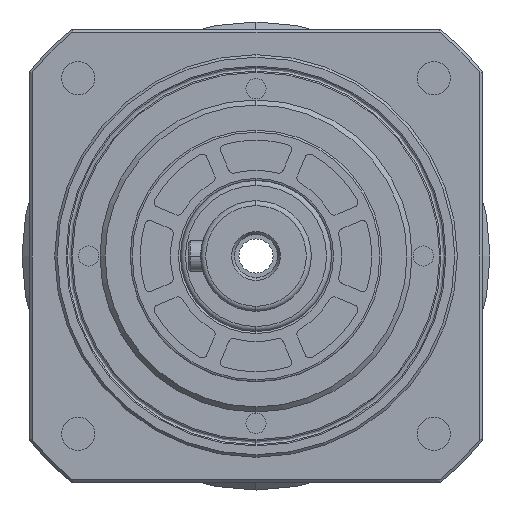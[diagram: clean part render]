
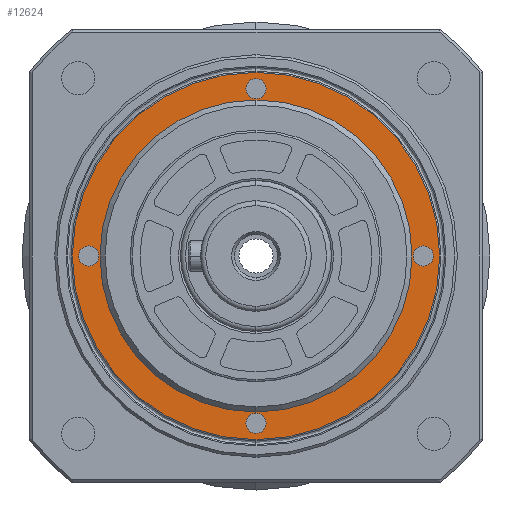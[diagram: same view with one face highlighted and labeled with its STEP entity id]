
A CAD part, left-side view. The second image highlights one B-rep face of the part: STEP entity #12624.
In plain terms, the highlighted planar face has unit normal (-1, 0, 0).
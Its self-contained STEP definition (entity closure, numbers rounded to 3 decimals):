
#421 = ORIENTED_EDGE ( 'NONE', *, *, #7993, .T. ) ;
#444 = ORIENTED_EDGE ( 'NONE', *, *, #8000, .F. ) ;
#446 = ORIENTED_EDGE ( 'NONE', *, *, #7984, .F. ) ;
#447 = ORIENTED_EDGE ( 'NONE', *, *, #8003, .F. ) ;
#451 = ORIENTED_EDGE ( 'NONE', *, *, #7982, .F. ) ;
#453 = ORIENTED_EDGE ( 'NONE', *, *, #8182, .F. ) ;
#454 = ORIENTED_EDGE ( 'NONE', *, *, #8178, .F. ) ;
#458 = ORIENTED_EDGE ( 'NONE', *, *, #8008, .F. ) ;
#499 = ORIENTED_EDGE ( 'NONE', *, *, #7996, .T. ) ;
#500 = ORIENTED_EDGE ( 'NONE', *, *, #8180, .F. ) ;
#501 = ORIENTED_EDGE ( 'NONE', *, *, #7966, .T. ) ;
#509 = ORIENTED_EDGE ( 'NONE', *, *, #8007, .T. ) ;
#2042 = CIRCLE ( 'NONE', #15411, 31. ) ;
#2043 = CIRCLE ( 'NONE', #15410, 2. ) ;
#2054 = CIRCLE ( 'NONE', #15375, 2. ) ;
#2065 = CIRCLE ( 'NONE', #15364, 2. ) ;
#2080 = CIRCLE ( 'NONE', #15392, 36.5 ) ;
#2087 = CIRCLE ( 'NONE', #15389, 36.5 ) ;
#2129 = CIRCLE ( 'NONE', #15384, 2. ) ;
#2136 = CIRCLE ( 'NONE', #15381, 2. ) ;
#2223 = CIRCLE ( 'NONE', #15371, 31. ) ;
#3495 = CIRCLE ( 'NONE', #15629, 2. ) ;
#3627 = CIRCLE ( 'NONE', #15628, 2. ) ;
#3658 = CIRCLE ( 'NONE', #15627, 2. ) ;
#5582 = VERTEX_POINT ( 'NONE', #6525 ) ;
#5597 = VERTEX_POINT ( 'NONE', #6456 ) ;
#5599 = VERTEX_POINT ( 'NONE', #6448 ) ;
#5646 = VERTEX_POINT ( 'NONE', #6292 ) ;
#6005 = VERTEX_POINT ( 'NONE', #6449 ) ;
#6292 = CARTESIAN_POINT ( 'NONE',  ( 88.9, -30.828, 2. ) ) ;
#6448 = CARTESIAN_POINT ( 'NONE',  ( 88.9, 35.672, -2. ) ) ;
#6449 = CARTESIAN_POINT ( 'NONE',  ( 88.9, 35.672, 2. ) ) ;
#6456 = CARTESIAN_POINT ( 'NONE',  ( 88.9, -30.828, -2. ) ) ;
#6525 = CARTESIAN_POINT ( 'NONE',  ( 88.9, 2.422, 35.25 ) ) ;
#7966 = EDGE_CURVE ( 'NONE', #10259, #10261, #2223, .T. ) ;
#7982 = EDGE_CURVE ( 'NONE', #10075, #5582, #2136, .T. ) ;
#7984 = EDGE_CURVE ( 'NONE', #5597, #5646, #2129, .T. ) ;
#7993 = EDGE_CURVE ( 'NONE', #10072, #10271, #2087, .T. ) ;
#7996 = EDGE_CURVE ( 'NONE', #10271, #10072, #2080, .T. ) ;
#8000 = EDGE_CURVE ( 'NONE', #10238, #10121, #2065, .T. ) ;
#8003 = EDGE_CURVE ( 'NONE', #5646, #5597, #2054, .T. ) ;
#8007 = EDGE_CURVE ( 'NONE', #10261, #10259, #2042, .T. ) ;
#8008 = EDGE_CURVE ( 'NONE', #6005, #5599, #2043, .T. ) ;
#8178 = EDGE_CURVE ( 'NONE', #5599, #6005, #3658, .T. ) ;
#8180 = EDGE_CURVE ( 'NONE', #10121, #10238, #3627, .T. ) ;
#8182 = EDGE_CURVE ( 'NONE', #5582, #10075, #3495, .T. ) ;
#9029 = DIRECTION ( 'NONE',  ( 0., 0., -1. ) ) ;
#9202 = DIRECTION ( 'NONE',  ( 1., 0., 0. ) ) ;
#9203 = DIRECTION ( 'NONE',  ( 0., 0., -1. ) ) ;
#9204 = CARTESIAN_POINT ( 'NONE',  ( 88.9, 35.672, 0. ) ) ;
#9205 = DIRECTION ( 'NONE',  ( -1., 0., 0. ) ) ;
#9206 = DIRECTION ( 'NONE',  ( 0., 0., 1. ) ) ;
#9301 = CARTESIAN_POINT ( 'NONE',  ( 88.9, 2.422, 0. ) ) ;
#9318 = CARTESIAN_POINT ( 'NONE',  ( 88.9, -30.828, 0. ) ) ;
#9319 = DIRECTION ( 'NONE',  ( 0., 0., 1. ) ) ;
#9320 = DIRECTION ( 'NONE',  ( -1., 0., 0. ) ) ;
#9325 = CARTESIAN_POINT ( 'NONE',  ( 88.9, 2.422, -33.25 ) ) ;
#9326 = DIRECTION ( 'NONE',  ( -1., 0., 0. ) ) ;
#9328 = DIRECTION ( 'NONE',  ( 0., 0., 1. ) ) ;
#9330 = CARTESIAN_POINT ( 'NONE',  ( 88.9, 2.422, 0. ) ) ;
#9336 = DIRECTION ( 'NONE',  ( 0., 0., 1. ) ) ;
#9337 = DIRECTION ( 'NONE',  ( -1., 0., 0. ) ) ;
#9374 = CARTESIAN_POINT ( 'NONE',  ( 88.9, 2.422, 33.25 ) ) ;
#9375 = DIRECTION ( 'NONE',  ( -1., 0., 0. ) ) ;
#9376 = DIRECTION ( 'NONE',  ( 0., 0., 1. ) ) ;
#9384 = CARTESIAN_POINT ( 'NONE',  ( 88.9, -30.828, 0. ) ) ;
#9385 = DIRECTION ( 'NONE',  ( -1., 0., 0. ) ) ;
#9386 = DIRECTION ( 'NONE',  ( 0., 0., 1. ) ) ;
#9412 = CARTESIAN_POINT ( 'NONE',  ( 88.9, 2.422, 0. ) ) ;
#9413 = DIRECTION ( 'NONE',  ( -1., 0., 0. ) ) ;
#9415 = DIRECTION ( 'NONE',  ( 0., 0., 1. ) ) ;
#9444 = DIRECTION ( 'NONE',  ( 1., 0., 0. ) ) ;
#9445 = CARTESIAN_POINT ( 'NONE',  ( 88.9, 2.422, 0. ) ) ;
#9667 = EDGE_LOOP ( 'NONE', ( #501, #509 ) ) ;
#10027 = EDGE_LOOP ( 'NONE', ( #499, #421 ) ) ;
#10029 = EDGE_LOOP ( 'NONE', ( #453, #451 ) ) ;
#10030 = EDGE_LOOP ( 'NONE', ( #444, #500 ) ) ;
#10032 = EDGE_LOOP ( 'NONE', ( #447, #446 ) ) ;
#10034 = EDGE_LOOP ( 'NONE', ( #458, #454 ) ) ;
#10072 = VERTEX_POINT ( 'NONE', #13788 ) ;
#10075 = VERTEX_POINT ( 'NONE', #13792 ) ;
#10121 = VERTEX_POINT ( 'NONE', #13304 ) ;
#10238 = VERTEX_POINT ( 'NONE', #13383 ) ;
#10259 = VERTEX_POINT ( 'NONE', #13356 ) ;
#10261 = VERTEX_POINT ( 'NONE', #13358 ) ;
#10271 = VERTEX_POINT ( 'NONE', #13337 ) ;
#11738 = AXIS2_PLACEMENT_3D ( 'NONE', #12461, #12462, #12463 ) ;
#12457 = PLANE ( 'NONE',  #11738 ) ;
#12461 = CARTESIAN_POINT ( 'NONE',  ( 88.9, 33.422, 0. ) ) ;
#12462 = DIRECTION ( 'NONE',  ( -1., 0., 0. ) ) ;
#12463 = DIRECTION ( 'NONE',  ( 0., 0., 1. ) ) ;
#12624 = ADVANCED_FACE ( 'NONE', ( #13977, #13976, #13975, #13974, #13973, #13971 ), #12457, .T. ) ;
#13304 = CARTESIAN_POINT ( 'NONE',  ( 88.9, 2.422, -35.25 ) ) ;
#13337 = CARTESIAN_POINT ( 'NONE',  ( 88.9, 2.422, -36.5 ) ) ;
#13356 = CARTESIAN_POINT ( 'NONE',  ( 88.9, 2.422, -31. ) ) ;
#13358 = CARTESIAN_POINT ( 'NONE',  ( 88.9, 2.422, 31. ) ) ;
#13383 = CARTESIAN_POINT ( 'NONE',  ( 88.9, 2.422, -31.25 ) ) ;
#13788 = CARTESIAN_POINT ( 'NONE',  ( 88.9, 2.422, 36.5 ) ) ;
#13792 = CARTESIAN_POINT ( 'NONE',  ( 88.9, 2.422, 31.25 ) ) ;
#13971 = FACE_BOUND ( 'NONE', #9667, .T. ) ;
#13973 = FACE_OUTER_BOUND ( 'NONE', #10027, .T. ) ;
#13974 = FACE_BOUND ( 'NONE', #10030, .T. ) ;
#13975 = FACE_BOUND ( 'NONE', #10032, .T. ) ;
#13976 = FACE_BOUND ( 'NONE', #10029, .T. ) ;
#13977 = FACE_BOUND ( 'NONE', #10034, .T. ) ;
#14159 = DIRECTION ( 'NONE',  ( 0., 0., 1. ) ) ;
#14161 = DIRECTION ( 'NONE',  ( -1., 0., 0. ) ) ;
#14162 = CARTESIAN_POINT ( 'NONE',  ( 88.9, 2.422, 33.25 ) ) ;
#14166 = DIRECTION ( 'NONE',  ( 0., 0., 1. ) ) ;
#14167 = CARTESIAN_POINT ( 'NONE',  ( 88.9, 2.422, -33.25 ) ) ;
#14168 = DIRECTION ( 'NONE',  ( -1., 0., 0. ) ) ;
#14192 = CARTESIAN_POINT ( 'NONE',  ( 88.9, 35.672, 0. ) ) ;
#14194 = DIRECTION ( 'NONE',  ( -1., 0., 0. ) ) ;
#14196 = DIRECTION ( 'NONE',  ( 0., 0., 1. ) ) ;
#15364 = AXIS2_PLACEMENT_3D ( 'NONE', #9325, #9326, #9328 ) ;
#15371 = AXIS2_PLACEMENT_3D ( 'NONE', #9445, #9444, #9029 ) ;
#15375 = AXIS2_PLACEMENT_3D ( 'NONE', #9318, #9320, #9319 ) ;
#15381 = AXIS2_PLACEMENT_3D ( 'NONE', #9374, #9375, #9376 ) ;
#15384 = AXIS2_PLACEMENT_3D ( 'NONE', #9384, #9385, #9386 ) ;
#15389 = AXIS2_PLACEMENT_3D ( 'NONE', #9412, #9413, #9415 ) ;
#15392 = AXIS2_PLACEMENT_3D ( 'NONE', #9330, #9337, #9336 ) ;
#15410 = AXIS2_PLACEMENT_3D ( 'NONE', #9204, #9205, #9206 ) ;
#15411 = AXIS2_PLACEMENT_3D ( 'NONE', #9301, #9202, #9203 ) ;
#15627 = AXIS2_PLACEMENT_3D ( 'NONE', #14192, #14194, #14196 ) ;
#15628 = AXIS2_PLACEMENT_3D ( 'NONE', #14167, #14168, #14166 ) ;
#15629 = AXIS2_PLACEMENT_3D ( 'NONE', #14162, #14161, #14159 ) ;
